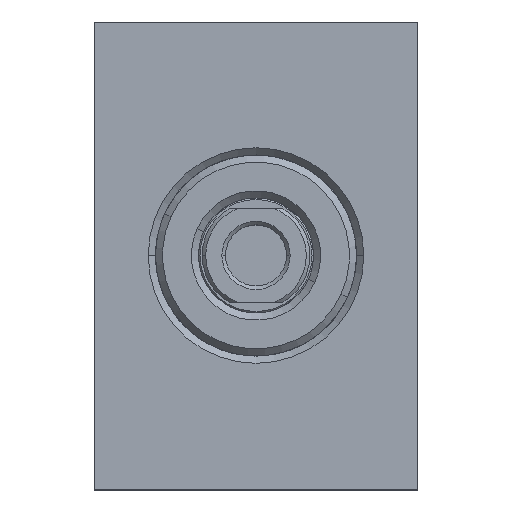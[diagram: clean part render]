
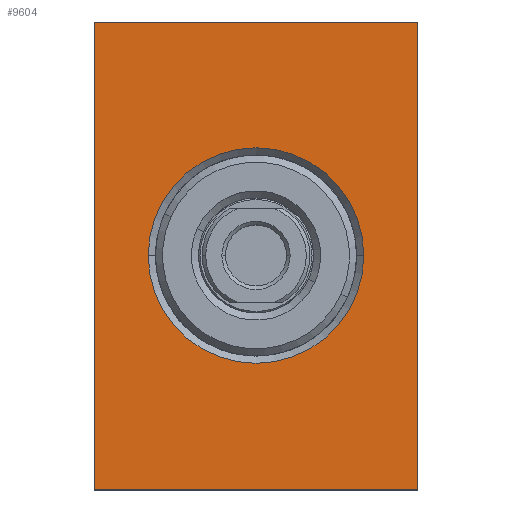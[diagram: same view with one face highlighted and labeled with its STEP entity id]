
A CAD part, top view. The second image highlights one B-rep face of the part: STEP entity #9604.
In plain terms, the highlighted planar face has unit normal (0, 0, 1).
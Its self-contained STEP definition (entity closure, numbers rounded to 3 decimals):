
#177 = CARTESIAN_POINT ( 'NONE',  ( 0., 0., 79. ) ) ;
#1029 = ORIENTED_EDGE ( 'NONE', *, *, #3053, .T. ) ;
#1035 = VERTEX_POINT ( 'NONE', #8208 ) ;
#1082 = EDGE_CURVE ( 'NONE', #5030, #6032, #1893, .T. ) ;
#1236 = DIRECTION ( 'NONE',  ( -1., 0., 0. ) ) ;
#1301 = ORIENTED_EDGE ( 'NONE', *, *, #2654, .T. ) ;
#1434 = CARTESIAN_POINT ( 'NONE',  ( 0., 0., 79. ) ) ;
#1476 = LINE ( 'NONE', #4763, #7943 ) ;
#1657 = CARTESIAN_POINT ( 'NONE',  ( 0., 0., 79. ) ) ;
#1781 = ORIENTED_EDGE ( 'NONE', *, *, #8377, .T. ) ;
#1893 = LINE ( 'NONE', #2772, #8476 ) ;
#2544 = ORIENTED_EDGE ( 'NONE', *, *, #1082, .T. ) ;
#2648 = ORIENTED_EDGE ( 'NONE', *, *, #5513, .T. ) ;
#2654 = EDGE_CURVE ( 'NONE', #3284, #8649, #9082, .T. ) ;
#2772 = CARTESIAN_POINT ( 'NONE',  ( 0., 65., 79. ) ) ;
#2788 = EDGE_LOOP ( 'NONE', ( #1301, #1781 ) ) ;
#3050 = CARTESIAN_POINT ( 'NONE',  ( 7.5, 32.5, 79. ) ) ;
#3053 = EDGE_CURVE ( 'NONE', #3407, #1035, #7449, .T. ) ;
#3102 = VECTOR ( 'NONE', #3241, 1000. ) ;
#3183 = DIRECTION ( 'NONE',  ( -1., 0., 0. ) ) ;
#3241 = DIRECTION ( 'NONE',  ( 1., 0., 0. ) ) ;
#3284 = VERTEX_POINT ( 'NONE', #6017 ) ;
#3407 = VERTEX_POINT ( 'NONE', #177 ) ;
#3445 = CIRCLE ( 'NONE', #4341, 15. ) ;
#4060 = CARTESIAN_POINT ( 'NONE',  ( 22.5, 32.5, 79. ) ) ;
#4341 = AXIS2_PLACEMENT_3D ( 'NONE', #4060, #9569, #4814 ) ;
#4452 = FACE_BOUND ( 'NONE', #2788, .T. ) ;
#4763 = CARTESIAN_POINT ( 'NONE',  ( 0., 0., 79. ) ) ;
#4811 = VECTOR ( 'NONE', #8320, 1000. ) ;
#4814 = DIRECTION ( 'NONE',  ( -1., 0., 0. ) ) ;
#4839 = EDGE_CURVE ( 'NONE', #6032, #3407, #1476, .T. ) ;
#5030 = VERTEX_POINT ( 'NONE', #9038 ) ;
#5513 = EDGE_CURVE ( 'NONE', #1035, #5030, #6552, .T. ) ;
#6017 = CARTESIAN_POINT ( 'NONE',  ( 37.5, 32.5, 79. ) ) ;
#6032 = VERTEX_POINT ( 'NONE', #8487 ) ;
#6119 = AXIS2_PLACEMENT_3D ( 'NONE', #1434, #8509, #3183 ) ;
#6359 = ORIENTED_EDGE ( 'NONE', *, *, #4839, .T. ) ;
#6552 = LINE ( 'NONE', #7285, #4811 ) ;
#6821 = DIRECTION ( 'NONE',  ( 0., 0., -1. ) ) ;
#6926 = CARTESIAN_POINT ( 'NONE',  ( 22.5, 32.5, 79. ) ) ;
#7248 = EDGE_LOOP ( 'NONE', ( #6359, #1029, #2648, #2544 ) ) ;
#7285 = CARTESIAN_POINT ( 'NONE',  ( 45., 0., 79. ) ) ;
#7435 = FACE_OUTER_BOUND ( 'NONE', #7248, .T. ) ;
#7449 = LINE ( 'NONE', #1657, #3102 ) ;
#7701 = PLANE ( 'NONE',  #6119 ) ;
#7943 = VECTOR ( 'NONE', #8737, 1000. ) ;
#8208 = CARTESIAN_POINT ( 'NONE',  ( 45., 0., 79. ) ) ;
#8320 = DIRECTION ( 'NONE',  ( 0., 1., 0. ) ) ;
#8377 = EDGE_CURVE ( 'NONE', #8649, #3284, #3445, .T. ) ;
#8425 = DIRECTION ( 'NONE',  ( -1., 0., 0. ) ) ;
#8476 = VECTOR ( 'NONE', #1236, 1000. ) ;
#8487 = CARTESIAN_POINT ( 'NONE',  ( 0., 65., 79. ) ) ;
#8509 = DIRECTION ( 'NONE',  ( 0., 0., -1. ) ) ;
#8649 = VERTEX_POINT ( 'NONE', #3050 ) ;
#8664 = AXIS2_PLACEMENT_3D ( 'NONE', #6926, #6821, #8425 ) ;
#8737 = DIRECTION ( 'NONE',  ( 0., -1., 0. ) ) ;
#9038 = CARTESIAN_POINT ( 'NONE',  ( 45., 65., 79. ) ) ;
#9082 = CIRCLE ( 'NONE', #8664, 15. ) ;
#9569 = DIRECTION ( 'NONE',  ( 0., 0., -1. ) ) ;
#9604 = ADVANCED_FACE ( 'NONE', ( #4452, #7435 ), #7701, .F. ) ;
